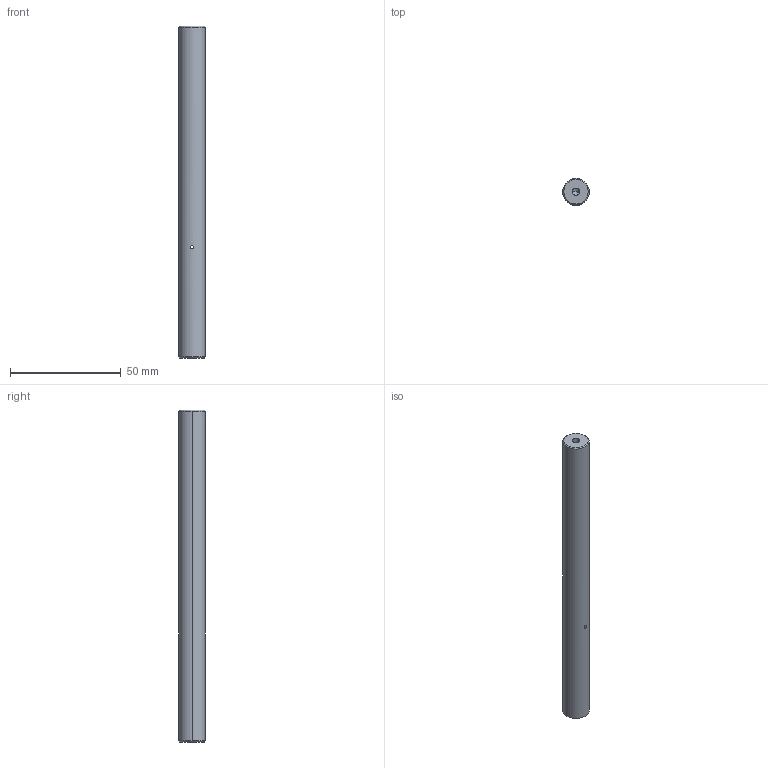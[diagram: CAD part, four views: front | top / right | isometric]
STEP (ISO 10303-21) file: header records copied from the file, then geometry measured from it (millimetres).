
FILE_DESCRIPTION (( 'STEP AP203' ), '1' );
FILE_NAME ('PHSP12-5C.step', '2019-05-09T09:08:15', ( '' ), ( '' ), 'SwSTEP 2.0', 'SolidWorks 2016', '' );
FILE_SCHEMA (( 'CONFIG_CONTROL_DESIGN' ));
Length unit declared in the file: millimetre
Products named in the file (1): PHSP12-5C
Bounding box: 12 x 12 x 150 mm (x, y, z)
Volume: 16755.9 mm3; surface area: 6123.4 mm2
Topology: 1 solids, 1 shells, 18 faces, 40 edges, 22 vertices
Faces by surface type: cylinder 8, cone 8, plane 2
Entity records: 597 total; most frequent: CARTESIAN_POINT 133, DIRECTION 86, ORIENTED_EDGE 72, EDGE_CURVE 36, AXIS2_PLACEMENT_3D 35, VERTEX_POINT 22, EDGE_LOOP 22, FACE_OUTER_BOUND 18
